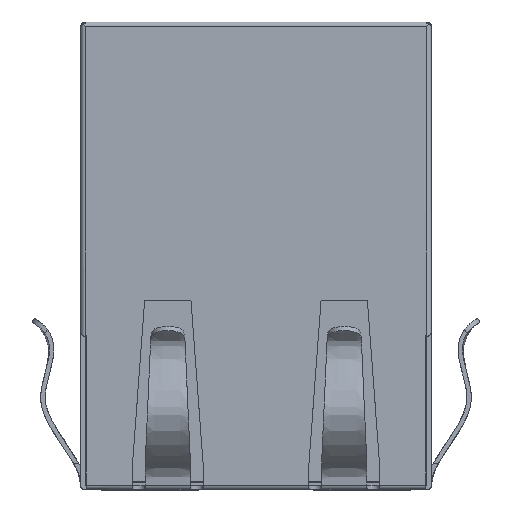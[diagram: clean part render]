
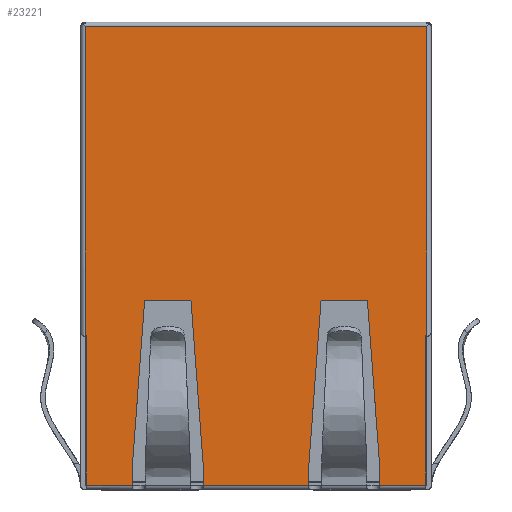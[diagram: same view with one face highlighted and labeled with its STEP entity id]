
A CAD part, top view. The second image highlights one B-rep face of the part: STEP entity #23221.
In plain terms, the highlighted planar face has unit normal (0, 0, 1).
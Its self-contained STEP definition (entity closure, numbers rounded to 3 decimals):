
#4185=DIRECTION('',(0.,-1.,0.));
#4186=VECTOR('',#4185,6.75);
#4187=CARTESIAN_POINT('',(7.7,-11.2,6.85));
#4188=LINE('',#4187,#4186);
#4214=DIRECTION('',(1.,0.,0.));
#4215=VECTOR('',#4214,2.1);
#4216=CARTESIAN_POINT('',(5.6,-17.95,6.85));
#4217=LINE('',#4216,#4215);
#4262=DIRECTION('',(1.,0.,0.));
#4263=VECTOR('',#4262,4.8);
#4264=CARTESIAN_POINT('',(-2.4,-17.95,6.85));
#4265=LINE('',#4264,#4263);
#4292=DIRECTION('',(1.,0.,0.));
#4293=VECTOR('',#4292,2.1);
#4294=CARTESIAN_POINT('',(-7.7,-17.95,6.85));
#4295=LINE('',#4294,#4293);
#4318=DIRECTION('',(0.,-1.,0.));
#4319=VECTOR('',#4318,6.75);
#4320=CARTESIAN_POINT('',(-7.7,-11.2,6.85));
#4321=LINE('',#4320,#4319);
#5251=DIRECTION('',(0.,-1.,0.));
#5252=VECTOR('',#5251,1.);
#5253=CARTESIAN_POINT('',(2.4,-16.95,6.85));
#5254=LINE('',#5253,#5252);
#5263=DIRECTION('',(1.,0.,0.));
#5264=VECTOR('',#5263,0.05);
#5265=CARTESIAN_POINT('',(-7.75,-11.2,6.85));
#5266=LINE('',#5265,#5264);
#5267=DIRECTION('',(1.,0.,0.));
#5268=VECTOR('',#5267,0.05);
#5269=CARTESIAN_POINT('',(7.7,-11.2,6.85));
#5270=LINE('',#5269,#5268);
#5271=DIRECTION('',(0.075,-0.997,0.));
#5272=VECTOR('',#5271,7.371);
#5273=CARTESIAN_POINT('',(5.05,-9.6,6.85));
#5274=LINE('',#5273,#5272);
#5275=DIRECTION('',(0.075,0.997,0.));
#5276=VECTOR('',#5275,7.371);
#5277=CARTESIAN_POINT('',(2.4,-16.95,6.85));
#5278=LINE('',#5277,#5276);
#5279=DIRECTION('',(0.075,-0.997,0.));
#5280=VECTOR('',#5279,7.371);
#5281=CARTESIAN_POINT('',(-2.95,-9.6,6.85));
#5282=LINE('',#5281,#5280);
#5283=DIRECTION('',(0.075,0.997,0.));
#5284=VECTOR('',#5283,7.371);
#5285=CARTESIAN_POINT('',(-5.6,-16.95,6.85));
#5286=LINE('',#5285,#5284);
#5292=CARTESIAN_POINT('',(-7.75,-11.2,6.85));
#5294=DIRECTION('',(0.,-1.,0.));
#5295=VECTOR('',#5294,14.05);
#5296=CARTESIAN_POINT('',(-7.75,2.85,6.85));
#5297=LINE('',#5296,#5295);
#5348=DIRECTION('',(-1.,0.,0.));
#5349=VECTOR('',#5348,15.5);
#5350=CARTESIAN_POINT('',(7.75,2.85,6.85));
#5351=LINE('',#5350,#5349);
#6571=DIRECTION('',(0.,1.,0.));
#6572=VECTOR('',#6571,14.05);
#6573=CARTESIAN_POINT('',(7.75,-11.2,6.85));
#6574=LINE('',#6573,#6572);
#6611=CARTESIAN_POINT('',(7.75,-11.2,6.85));
#6621=DIRECTION('',(0.,1.,0.));
#6622=VECTOR('',#6621,1.);
#6623=CARTESIAN_POINT('',(5.6,-17.95,6.85));
#6624=LINE('',#6623,#6622);
#6645=DIRECTION('',(-1.,0.,0.));
#6646=VECTOR('',#6645,2.1);
#6647=CARTESIAN_POINT('',(5.05,-9.6,6.85));
#6648=LINE('',#6647,#6646);
#6657=DIRECTION('',(0.,-1.,0.));
#6658=VECTOR('',#6657,1.);
#6659=CARTESIAN_POINT('',(-2.4,-16.95,6.85));
#6660=LINE('',#6659,#6658);
#6677=DIRECTION('',(1.,0.,0.));
#6678=VECTOR('',#6677,2.1);
#6679=CARTESIAN_POINT('',(-5.05,-9.6,6.85));
#6680=LINE('',#6679,#6678);
#6693=DIRECTION('',(0.,1.,0.));
#6694=VECTOR('',#6693,1.);
#6695=CARTESIAN_POINT('',(-5.6,-17.95,6.85));
#6696=LINE('',#6695,#6694);
#12387=VERTEX_POINT('',#6611);
#12390=CARTESIAN_POINT('',(7.7,-11.2,6.85));
#12391=VERTEX_POINT('',#12390);
#12393=CARTESIAN_POINT('',(7.75,2.85,6.85));
#12394=VERTEX_POINT('',#12393);
#12399=CARTESIAN_POINT('',(-7.75,2.85,6.85));
#12400=VERTEX_POINT('',#12399);
#12501=VERTEX_POINT('',#5292);
#12506=CARTESIAN_POINT('',(-7.7,-11.2,6.85));
#12507=VERTEX_POINT('',#12506);
#12510=CARTESIAN_POINT('',(-7.7,-17.95,6.85));
#12511=CARTESIAN_POINT('',(-5.6,-17.95,6.85));
#12512=VERTEX_POINT('',#12510);
#12513=VERTEX_POINT('',#12511);
#12514=CARTESIAN_POINT('',(7.7,-17.95,6.85));
#12515=VERTEX_POINT('',#12514);
#12516=CARTESIAN_POINT('',(5.6,-17.95,6.85));
#12517=VERTEX_POINT('',#12516);
#12518=CARTESIAN_POINT('',(5.6,-16.95,6.85));
#12519=VERTEX_POINT('',#12518);
#12520=CARTESIAN_POINT('',(5.05,-9.6,6.85));
#12521=VERTEX_POINT('',#12520);
#12522=CARTESIAN_POINT('',(2.95,-9.6,6.85));
#12523=VERTEX_POINT('',#12522);
#12524=CARTESIAN_POINT('',(2.4,-16.95,6.85));
#12525=VERTEX_POINT('',#12524);
#12526=CARTESIAN_POINT('',(2.4,-17.95,6.85));
#12527=VERTEX_POINT('',#12526);
#12528=CARTESIAN_POINT('',(-2.4,-17.95,6.85));
#12529=VERTEX_POINT('',#12528);
#12530=CARTESIAN_POINT('',(-2.4,-16.95,6.85));
#12531=VERTEX_POINT('',#12530);
#12532=CARTESIAN_POINT('',(-2.95,-9.6,6.85));
#12533=VERTEX_POINT('',#12532);
#12534=CARTESIAN_POINT('',(-5.05,-9.6,6.85));
#12535=VERTEX_POINT('',#12534);
#12536=CARTESIAN_POINT('',(-5.6,-16.95,6.85));
#12537=VERTEX_POINT('',#12536);
#23180=CARTESIAN_POINT('',(0.,-7.55,6.85));
#23181=DIRECTION('',(0.,0.,1.));
#23182=DIRECTION('',(-1.,0.,0.));
#23183=AXIS2_PLACEMENT_3D('',#23180,#23181,#23182);
#23184=PLANE('',#23183);
#23185=ORIENTED_EDGE('',*,*,#22293,.F.);
#23186=ORIENTED_EDGE('',*,*,#22315,.F.);
#23188=ORIENTED_EDGE('',*,*,#23187,.F.);
#23190=ORIENTED_EDGE('',*,*,#23189,.F.);
#23192=ORIENTED_EDGE('',*,*,#23191,.F.);
#23194=ORIENTED_EDGE('',*,*,#23193,.F.);
#23196=ORIENTED_EDGE('',*,*,#23195,.F.);
#23197=ORIENTED_EDGE('',*,*,#22161,.T.);
#23198=ORIENTED_EDGE('',*,*,#22181,.F.);
#23200=ORIENTED_EDGE('',*,*,#23199,.T.);
#23202=ORIENTED_EDGE('',*,*,#23201,.F.);
#23204=ORIENTED_EDGE('',*,*,#23203,.T.);
#23206=ORIENTED_EDGE('',*,*,#23205,.F.);
#23207=ORIENTED_EDGE('',*,*,#23171,.T.);
#23208=ORIENTED_EDGE('',*,*,#22237,.F.);
#23210=ORIENTED_EDGE('',*,*,#23209,.F.);
#23212=ORIENTED_EDGE('',*,*,#23211,.F.);
#23214=ORIENTED_EDGE('',*,*,#23213,.F.);
#23216=ORIENTED_EDGE('',*,*,#23215,.F.);
#23218=ORIENTED_EDGE('',*,*,#23217,.F.);
#23219=EDGE_LOOP('',(#23185,#23186,#23188,#23190,#23192,#23194,#23196,#23197,
#23198,#23200,#23202,#23204,#23206,#23207,#23208,#23210,#23212,#23214,#23216,
#23218));
#23220=FACE_OUTER_BOUND('',#23219,.F.);
#23221=ADVANCED_FACE('',(#23220),#23184,.T.);
#22161=EDGE_CURVE('',#12391,#12515,#4188,.T.);
#22181=EDGE_CURVE('',#12517,#12515,#4217,.T.);
#22237=EDGE_CURVE('',#12529,#12527,#4265,.T.);
#22293=EDGE_CURVE('',#12512,#12513,#4295,.T.);
#22315=EDGE_CURVE('',#12507,#12512,#4321,.T.);
#23171=EDGE_CURVE('',#12525,#12527,#5254,.T.);
#23187=EDGE_CURVE('',#12501,#12507,#5266,.T.);
#23189=EDGE_CURVE('',#12400,#12501,#5297,.T.);
#23191=EDGE_CURVE('',#12394,#12400,#5351,.T.);
#23193=EDGE_CURVE('',#12387,#12394,#6574,.T.);
#23195=EDGE_CURVE('',#12391,#12387,#5270,.T.);
#23199=EDGE_CURVE('',#12517,#12519,#6624,.T.);
#23201=EDGE_CURVE('',#12521,#12519,#5274,.T.);
#23203=EDGE_CURVE('',#12521,#12523,#6648,.T.);
#23205=EDGE_CURVE('',#12525,#12523,#5278,.T.);
#23209=EDGE_CURVE('',#12531,#12529,#6660,.T.);
#23211=EDGE_CURVE('',#12533,#12531,#5282,.T.);
#23213=EDGE_CURVE('',#12535,#12533,#6680,.T.);
#23215=EDGE_CURVE('',#12537,#12535,#5286,.T.);
#23217=EDGE_CURVE('',#12513,#12537,#6696,.T.);
